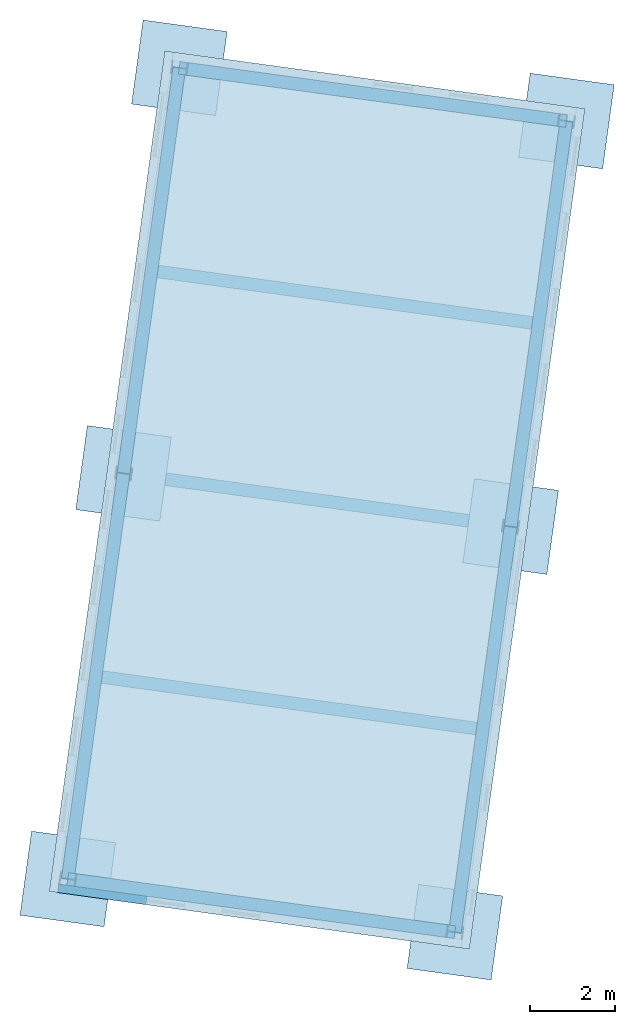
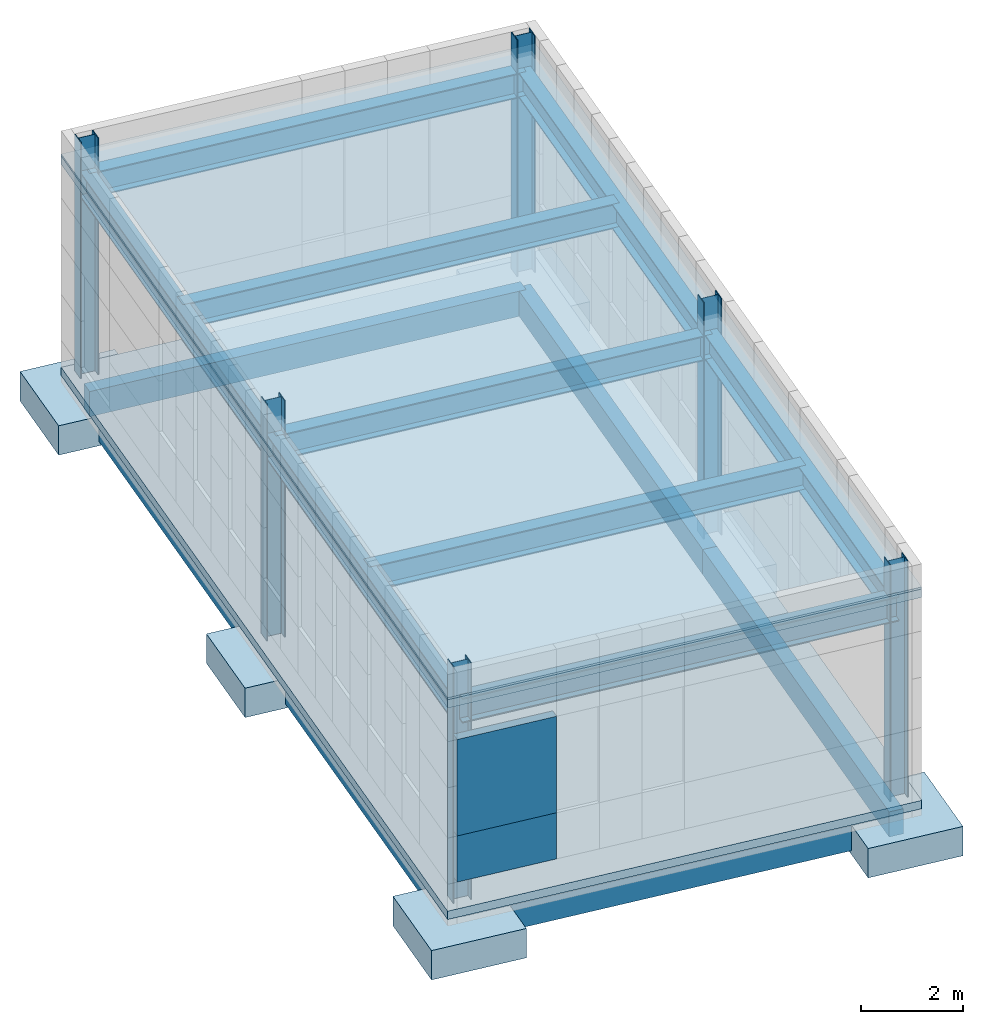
# One storey, part 1 of 5: 15 beams, 6 columns, 6 footings, 3 slabs, 2 walls.
"""IFC4 building model written with IfcOpenShell, lengths in metres."""

from ifc_helpers import new_model, si_unit, direction, origin_with_axes, place, context, subcontext, project, spatial, triangles, material, element, save


model = new_model("IFC4")

# Units and contexts
model_context = context("Model", 3, precision=1e-05, world=origin_with_axes(), true_north=direction((0.0, 1.0)))
body_context = subcontext(model_context, "Body", "Model", "MODEL_VIEW")
ifc_project = project(units=[si_unit("AREAUNIT", "SQUARE_METRE"), si_unit("VOLUMEUNIT", "CUBIC_METRE"), si_unit("LENGTHUNIT", "METRE")], contexts=[model_context])

# Site, building, storey
site_placement = place(None, origin_with_axes())
site = spatial("IfcSite", under=ifc_project, at=site_placement, Name="Parcela industrial Jinhong")
building_placement = place(site_placement, origin_with_axes())
building = spatial("IfcBuilding", under=site, at=building_placement, Name="Edificio de oficinas")
storey_placement = place(building_placement, origin_with_axes())
storey = spatial("IfcBuildingStorey", under=building, at=storey_placement, Name="Planta baja", Elevation=0.9499999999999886)

# Footings
ifc_material_1 = material(Name="Hormigón armado HA-30", Category="Material documentado")
footing_1_placement = place(storey_placement, origin_with_axes())
element("IfcFooting", 1, at=footing_1_placement, inside=storey, material=ifc_material_1, Name="Edificio de oficinas · zapata aislada BASE1 · 1", PredefinedType="PAD_FOOTING", context=body_context, shape_type="Tessellation", body=[
    triangles([(17.031806, 93.644174, -0.75), (16.759398, 91.662812, -0.75), (18.74076, 91.390404, -0.75), (19.013167, 93.371766, -0.75), (17.031806, 93.644174, -0.05), (16.759398, 91.662812, -0.05), (18.74076, 91.390404, -0.05), (19.013167, 93.371766, -0.05)], [[2, 1, 4], [4, 3, 2], [8, 5, 6], [6, 7, 8], [1, 2, 6], [1, 6, 5], [2, 3, 7], [2, 7, 6], [3, 4, 8], [3, 8, 7], [4, 1, 5], [4, 5, 8]], closed=True),
])
footing_2_placement = place(storey_placement, origin_with_axes())
element("IfcFooting", 2, at=footing_2_placement, inside=storey, material=ifc_material_1, Name="Edificio de oficinas · zapata aislada BASE1 · 2", PredefinedType="PAD_FOOTING", context=body_context, shape_type="Tessellation", body=[
    triangles([(15.717438, 84.084104, -0.75), (15.44503, 82.102742, -0.75), (17.426392, 81.830334, -0.75), (17.6988, 83.811696, -0.75), (15.717438, 84.084104, -0.05), (15.44503, 82.102742, -0.05), (17.426392, 81.830334, -0.05), (17.6988, 83.811696, -0.05)], [[2, 1, 4], [4, 3, 2], [8, 5, 6], [6, 7, 8], [1, 2, 6], [1, 6, 5], [2, 3, 7], [2, 7, 6], [3, 4, 8], [3, 8, 7], [4, 1, 5], [4, 5, 8]], closed=True),
])
footing_3_placement = place(storey_placement, origin_with_axes())
element("IfcFooting", 3, at=footing_3_placement, inside=storey, material=ifc_material_1, Name="Edificio de oficinas · zapata aislada BASE1 · 3", PredefinedType="PAD_FOOTING", context=body_context, shape_type="Tessellation", body=[
    triangles([(14.40307, 74.524034, -0.75), (14.130662, 72.542672, -0.75), (16.112024, 72.270264, -0.75), (16.384432, 74.251626, -0.75), (14.40307, 74.524034, -0.05), (14.130662, 72.542672, -0.05), (16.112024, 72.270264, -0.05), (16.384432, 74.251626, -0.05)], [[2, 1, 4], [4, 3, 2], [8, 5, 6], [6, 7, 8], [1, 2, 6], [1, 6, 5], [2, 3, 7], [2, 7, 6], [3, 4, 8], [3, 8, 7], [4, 1, 5], [4, 5, 8]], closed=True),
])
footing_4_placement = place(storey_placement, origin_with_axes())
element("IfcFooting", 4, at=footing_4_placement, inside=storey, material=ifc_material_1, Name="Edificio de oficinas · zapata aislada BASE1 · 4", PredefinedType="PAD_FOOTING", context=body_context, shape_type="Tessellation", body=[
    triangles([(26.155976, 92.389736, -0.75), (25.883568, 90.408374, -0.75), (27.86493, 90.135966, -0.75), (28.137338, 92.117328, -0.75), (26.155976, 92.389736, -0.05), (25.883568, 90.408374, -0.05), (27.86493, 90.135966, -0.05), (28.137338, 92.117328, -0.05)], [[2, 1, 4], [4, 3, 2], [8, 5, 6], [6, 7, 8], [1, 2, 6], [1, 6, 5], [2, 3, 7], [2, 7, 6], [3, 4, 8], [3, 8, 7], [4, 1, 5], [4, 5, 8]], closed=True),
])
footing_5_placement = place(storey_placement, origin_with_axes())
element("IfcFooting", 5, at=footing_5_placement, inside=storey, material=ifc_material_1, Name="Edificio de oficinas · zapata aislada BASE1 · 5", PredefinedType="PAD_FOOTING", context=body_context, shape_type="Tessellation", body=[
    triangles([(24.841608, 82.829666, -0.75), (24.5692, 80.848304, -0.75), (26.550562, 80.575896, -0.75), (26.82297, 82.557258, -0.75), (24.841608, 82.829666, -0.05), (24.5692, 80.848304, -0.05), (26.550562, 80.575896, -0.05), (26.82297, 82.557258, -0.05)], [[2, 1, 4], [4, 3, 2], [8, 5, 6], [6, 7, 8], [1, 2, 6], [1, 6, 5], [2, 3, 7], [2, 7, 6], [3, 4, 8], [3, 8, 7], [4, 1, 5], [4, 5, 8]], closed=True),
])
footing_6_placement = place(storey_placement, origin_with_axes())
element("IfcFooting", 6, at=footing_6_placement, inside=storey, material=ifc_material_1, Name="Edificio de oficinas · zapata aislada BASE1 · 6", PredefinedType="PAD_FOOTING", context=body_context, shape_type="Tessellation", body=[
    triangles([(23.52724, 73.269596, -0.75), (23.254833, 71.288234, -0.75), (25.236194, 71.015826, -0.75), (25.508602, 72.997188, -0.75), (23.52724, 73.269596, -0.05), (23.254833, 71.288234, -0.05), (25.236194, 71.015826, -0.05), (25.508602, 72.997188, -0.05)], [[2, 1, 4], [4, 3, 2], [8, 5, 6], [6, 7, 8], [1, 2, 6], [1, 6, 5], [2, 3, 7], [2, 7, 6], [3, 4, 8], [3, 8, 7], [4, 1, 5], [4, 5, 8]], closed=True),
])

# Columns
ifc_material_2 = material(Name="Acero estructural S355JR", Category="Material documentado")
column_1_placement = place(storey_placement, origin_with_axes())
element("IfcColumn", 7, at=column_1_placement, inside=storey, material=ifc_material_2, Name="Edificio de oficinas · pilar HEA400 · 1", PredefinedType="COLUMN", context=body_context, shape_type="Tessellation", body=[
    triangles([(17.713531, 92.692451, -0.05), (17.672669, 92.395247, -0.05), (17.691492, 92.392659, -0.05), (17.711174, 92.535812, -0.05), (18.059893, 92.487868, -0.05), (18.040212, 92.344715, -0.05), (18.059035, 92.342127, -0.05), (18.099896, 92.639331, -0.05), (18.081073, 92.641919, -0.05), (18.061392, 92.498766, -0.05), (17.712672, 92.54671, -0.05), (17.732353, 92.689863, -0.05), (17.713531, 92.692451, 5.95), (17.672669, 92.395247, 5.95), (17.691492, 92.392659, 5.95), (17.711174, 92.535812, 5.95), (18.059893, 92.487868, 5.95), (18.040212, 92.344715, 5.95), (18.059035, 92.342127, 5.95), (18.099896, 92.639331, 5.95), (18.081073, 92.641919, 5.95), (18.061392, 92.498766, 5.95), (17.712672, 92.54671, 5.95), (17.732353, 92.689863, 5.95)], [[2, 1, 12], [4, 3, 2], [7, 6, 5], [8, 7, 5], [10, 9, 8], [10, 8, 5], [10, 5, 4], [11, 10, 4], [11, 4, 2], [12, 11, 2], [24, 13, 14], [14, 15, 16], [17, 18, 19], [17, 19, 20], [20, 21, 22], [17, 20, 22], [16, 17, 22], [16, 22, 23], [14, 16, 23], [14, 23, 24], [1, 2, 14], [1, 14, 13], [2, 3, 15], [2, 15, 14], [3, 4, 16], [3, 16, 15], [4, 5, 17], [4, 17, 16], [5, 6, 18], [5, 18, 17], [6, 7, 19], [6, 19, 18], [7, 8, 20], [7, 20, 19], [8, 9, 21], [8, 21, 20], [9, 10, 22], [9, 22, 21], [10, 11, 23], [10, 23, 22], [11, 12, 24], [11, 24, 23], [12, 1, 13], [12, 13, 24]], closed=True),
])
column_2_placement = place(storey_placement, origin_with_axes())
element("IfcColumn", 8, at=column_2_placement, inside=storey, material=ifc_material_2, Name="Edificio de oficinas · pilar HEA400 · 2", PredefinedType="COLUMN", context=body_context, shape_type="Tessellation", body=[
    triangles([(16.399163, 83.132381, -0.05), (16.358301, 82.835177, -0.05), (16.377124, 82.832589, -0.05), (16.396806, 82.975742, -0.05), (16.745526, 82.927798, -0.05), (16.725844, 82.784645, -0.05), (16.744667, 82.782057, -0.05), (16.785528, 83.079261, -0.05), (16.766705, 83.081849, -0.05), (16.747024, 82.938696, -0.05), (16.398304, 82.98664, -0.05), (16.417986, 83.129793, -0.05), (16.399163, 83.132381, 5.95), (16.358301, 82.835177, 5.95), (16.377124, 82.832589, 5.95), (16.396806, 82.975742, 5.95), (16.745526, 82.927798, 5.95), (16.725844, 82.784645, 5.95), (16.744667, 82.782057, 5.95), (16.785528, 83.079261, 5.95), (16.766705, 83.081849, 5.95), (16.747024, 82.938696, 5.95), (16.398304, 82.98664, 5.95), (16.417986, 83.129793, 5.95)], [[2, 1, 12], [4, 3, 2], [7, 6, 5], [8, 7, 5], [10, 9, 8], [10, 8, 5], [10, 5, 4], [11, 10, 4], [11, 4, 2], [12, 11, 2], [24, 13, 14], [14, 15, 16], [17, 18, 19], [17, 19, 20], [20, 21, 22], [17, 20, 22], [16, 17, 22], [16, 22, 23], [14, 16, 23], [14, 23, 24], [1, 2, 14], [1, 14, 13], [2, 3, 15], [2, 15, 14], [3, 4, 16], [3, 16, 15], [4, 5, 17], [4, 17, 16], [5, 6, 18], [5, 18, 17], [6, 7, 19], [6, 19, 18], [7, 8, 20], [7, 20, 19], [8, 9, 21], [8, 21, 20], [9, 10, 22], [9, 22, 21], [10, 11, 23], [10, 23, 22], [11, 12, 24], [11, 24, 23], [12, 1, 13], [12, 13, 24]], closed=True),
])
column_3_placement = place(storey_placement, origin_with_axes())
element("IfcColumn", 9, at=column_3_placement, inside=storey, material=ifc_material_2, Name="Edificio de oficinas · pilar HEA400 · 3", PredefinedType="COLUMN", context=body_context, shape_type="Tessellation", body=[
    triangles([(15.084795, 73.572311, -0.05), (15.043934, 73.275107, -0.05), (15.062757, 73.272519, -0.05), (15.082438, 73.415672, -0.05), (15.431158, 73.367729, -0.05), (15.411476, 73.224575, -0.05), (15.430299, 73.221987, -0.05), (15.47116, 73.519192, -0.05), (15.452337, 73.521779, -0.05), (15.432656, 73.378626, -0.05), (15.083936, 73.42657, -0.05), (15.103618, 73.569723, -0.05), (15.084795, 73.572311, 5.95), (15.043934, 73.275107, 5.95), (15.062757, 73.272519, 5.95), (15.082438, 73.415672, 5.95), (15.431158, 73.367729, 5.95), (15.411476, 73.224575, 5.95), (15.430299, 73.221987, 5.95), (15.47116, 73.519192, 5.95), (15.452337, 73.521779, 5.95), (15.432656, 73.378626, 5.95), (15.083936, 73.42657, 5.95), (15.103618, 73.569723, 5.95)], [[2, 1, 12], [4, 3, 2], [7, 6, 5], [8, 7, 5], [10, 9, 8], [10, 8, 5], [10, 5, 4], [11, 10, 4], [11, 4, 2], [12, 11, 2], [24, 13, 14], [14, 15, 16], [17, 18, 19], [17, 19, 20], [20, 21, 22], [17, 20, 22], [16, 17, 22], [16, 22, 23], [14, 16, 23], [14, 23, 24], [1, 2, 14], [1, 14, 13], [2, 3, 15], [2, 15, 14], [3, 4, 16], [3, 16, 15], [4, 5, 17], [4, 17, 16], [5, 6, 18], [5, 18, 17], [6, 7, 19], [6, 19, 18], [7, 8, 20], [7, 20, 19], [8, 9, 21], [8, 21, 20], [9, 10, 22], [9, 22, 21], [10, 11, 23], [10, 23, 22], [11, 12, 24], [11, 24, 23], [12, 1, 13], [12, 13, 24]], closed=True),
])
column_4_placement = place(storey_placement, origin_with_axes())
element("IfcColumn", 10, at=column_4_placement, inside=storey, material=ifc_material_2, Name="Edificio de oficinas · pilar HEA400 · 4", PredefinedType="COLUMN", context=body_context, shape_type="Tessellation", body=[
    triangles([(26.837701, 91.438013, -0.05), (26.79684, 91.140808, -0.05), (26.815663, 91.138221, -0.05), (26.835344, 91.281374, -0.05), (27.184064, 91.23343, -0.05), (27.164382, 91.090277, -0.05), (27.183205, 91.087689, -0.05), (27.224066, 91.384893, -0.05), (27.205243, 91.387481, -0.05), (27.185562, 91.244328, -0.05), (26.836842, 91.292271, -0.05), (26.856524, 91.435425, -0.05), (26.837701, 91.438013, 5.95), (26.79684, 91.140808, 5.95), (26.815663, 91.138221, 5.95), (26.835344, 91.281374, 5.95), (27.184064, 91.23343, 5.95), (27.164382, 91.090277, 5.95), (27.183205, 91.087689, 5.95), (27.224066, 91.384893, 5.95), (27.205243, 91.387481, 5.95), (27.185562, 91.244328, 5.95), (26.836842, 91.292271, 5.95), (26.856524, 91.435425, 5.95)], [[2, 1, 12], [4, 3, 2], [7, 6, 5], [8, 7, 5], [10, 9, 8], [10, 8, 5], [10, 5, 4], [11, 10, 4], [11, 4, 2], [12, 11, 2], [24, 13, 14], [14, 15, 16], [17, 18, 19], [17, 19, 20], [20, 21, 22], [17, 20, 22], [16, 17, 22], [16, 22, 23], [14, 16, 23], [14, 23, 24], [1, 2, 14], [1, 14, 13], [2, 3, 15], [2, 15, 14], [3, 4, 16], [3, 16, 15], [4, 5, 17], [4, 17, 16], [5, 6, 18], [5, 18, 17], [6, 7, 19], [6, 19, 18], [7, 8, 20], [7, 20, 19], [8, 9, 21], [8, 21, 20], [9, 10, 22], [9, 22, 21], [10, 11, 23], [10, 23, 22], [11, 12, 24], [11, 24, 23], [12, 1, 13], [12, 13, 24]], closed=True),
])
column_5_placement = place(storey_placement, origin_with_axes())
element("IfcColumn", 11, at=column_5_placement, inside=storey, material=ifc_material_2, Name="Edificio de oficinas · pilar HEA400 · 5", PredefinedType="COLUMN", context=body_context, shape_type="Tessellation", body=[
    triangles([(25.523333, 81.877943, -0.05), (25.482472, 81.580739, -0.05), (25.501295, 81.578151, -0.05), (25.520976, 81.721304, -0.05), (25.869696, 81.67336, -0.05), (25.850014, 81.530207, -0.05), (25.868837, 81.527619, -0.05), (25.909699, 81.824823, -0.05), (25.890876, 81.827411, -0.05), (25.871194, 81.684258, -0.05), (25.522474, 81.732202, -0.05), (25.542156, 81.875355, -0.05), (25.523333, 81.877943, 5.95), (25.482472, 81.580739, 5.95), (25.501295, 81.578151, 5.95), (25.520976, 81.721304, 5.95), (25.869696, 81.67336, 5.95), (25.850014, 81.530207, 5.95), (25.868837, 81.527619, 5.95), (25.909699, 81.824823, 5.95), (25.890876, 81.827411, 5.95), (25.871194, 81.684258, 5.95), (25.522474, 81.732202, 5.95), (25.542156, 81.875355, 5.95)], [[2, 1, 12], [4, 3, 2], [7, 6, 5], [8, 7, 5], [10, 9, 8], [10, 8, 5], [10, 5, 4], [11, 10, 4], [11, 4, 2], [12, 11, 2], [24, 13, 14], [14, 15, 16], [17, 18, 19], [17, 19, 20], [20, 21, 22], [17, 20, 22], [16, 17, 22], [16, 22, 23], [14, 16, 23], [14, 23, 24], [1, 2, 14], [1, 14, 13], [2, 3, 15], [2, 15, 14], [3, 4, 16], [3, 16, 15], [4, 5, 17], [4, 17, 16], [5, 6, 18], [5, 18, 17], [6, 7, 19], [6, 19, 18], [7, 8, 20], [7, 20, 19], [8, 9, 21], [8, 21, 20], [9, 10, 22], [9, 22, 21], [10, 11, 23], [10, 23, 22], [11, 12, 24], [11, 24, 23], [12, 1, 13], [12, 13, 24]], closed=True),
])
column_6_placement = place(storey_placement, origin_with_axes())
element("IfcColumn", 12, at=column_6_placement, inside=storey, material=ifc_material_2, Name="Edificio de oficinas · pilar HEA400 · 6", PredefinedType="COLUMN", context=body_context, shape_type="Tessellation", body=[
    triangles([(24.208965, 72.317873, -0.05), (24.168104, 72.020669, -0.05), (24.186927, 72.018081, -0.05), (24.206608, 72.161234, -0.05), (24.555328, 72.11329, -0.05), (24.535647, 71.970137, -0.05), (24.554469, 71.967549, -0.05), (24.595331, 72.264753, -0.05), (24.576508, 72.267341, -0.05), (24.556826, 72.124188, -0.05), (24.208107, 72.172132, -0.05), (24.227788, 72.315285, -0.05), (24.208965, 72.317873, 5.95), (24.168104, 72.020669, 5.95), (24.186927, 72.018081, 5.95), (24.206608, 72.161234, 5.95), (24.555328, 72.11329, 5.95), (24.535647, 71.970137, 5.95), (24.554469, 71.967549, 5.95), (24.595331, 72.264753, 5.95), (24.576508, 72.267341, 5.95), (24.556826, 72.124188, 5.95), (24.208107, 72.172132, 5.95), (24.227788, 72.315285, 5.95)], [[2, 1, 12], [4, 3, 2], [7, 6, 5], [8, 7, 5], [10, 9, 8], [10, 8, 5], [10, 5, 4], [11, 10, 4], [11, 4, 2], [12, 11, 2], [24, 13, 14], [14, 15, 16], [17, 18, 19], [17, 19, 20], [20, 21, 22], [17, 20, 22], [16, 17, 22], [16, 22, 23], [14, 16, 23], [14, 23, 24], [1, 2, 14], [1, 14, 13], [2, 3, 15], [2, 15, 14], [3, 4, 16], [3, 16, 15], [4, 5, 17], [4, 17, 16], [5, 6, 18], [5, 18, 17], [6, 7, 19], [6, 19, 18], [7, 8, 20], [7, 20, 19], [8, 9, 21], [8, 21, 20], [9, 10, 22], [9, 22, 21], [10, 11, 23], [10, 23, 22], [11, 12, 24], [11, 24, 23], [12, 1, 13], [12, 13, 24]], closed=True),
])

# Beams
ifc_material_3 = material(Name="Acero estructural S355JR", Category="Material documentado")
beam_1_placement = place(storey_placement, origin_with_axes())
element("IfcBeam", 13, at=beam_1_placement, inside=storey, material=ifc_material_3, Name="Edificio de oficinas · viga de cubierta HEA600 · 1", PredefinedType="BEAM", context=body_context, shape_type="Tessellation", body=[
    triangles([(17.737681, 92.53772, 4.56), (18.034885, 92.496858, 4.56), (18.034885, 92.496858, 4.585), (17.892722, 92.516404, 4.585), (17.892722, 92.516404, 5.125), (18.034885, 92.496858, 5.125), (18.034885, 92.496858, 5.15), (17.737681, 92.53772, 5.15), (17.737681, 92.53772, 5.125), (17.879843, 92.518174, 5.125), (17.879843, 92.518174, 4.585), (17.737681, 92.53772, 4.585), (16.423313, 82.97765, 4.56), (16.720517, 82.936788, 4.56), (16.720517, 82.936788, 4.585), (16.578354, 82.956334, 4.585), (16.578354, 82.956334, 5.125), (16.720517, 82.936788, 5.125), (16.720517, 82.936788, 5.15), (16.423313, 82.97765, 5.15), (16.423313, 82.97765, 5.125), (16.565475, 82.958104, 5.125), (16.565475, 82.958104, 4.585), (16.423313, 82.97765, 4.585)], [[2, 1, 12], [4, 3, 2], [7, 6, 5], [8, 7, 5], [10, 9, 8], [10, 8, 5], [10, 5, 4], [11, 10, 4], [11, 4, 2], [12, 11, 2], [24, 13, 14], [14, 15, 16], [17, 18, 19], [17, 19, 20], [20, 21, 22], [17, 20, 22], [16, 17, 22], [16, 22, 23], [14, 16, 23], [14, 23, 24], [1, 2, 14], [1, 14, 13], [2, 3, 15], [2, 15, 14], [3, 4, 16], [3, 16, 15], [4, 5, 17], [4, 17, 16], [5, 6, 18], [5, 18, 17], [6, 7, 19], [6, 19, 18], [7, 8, 20], [7, 20, 19], [8, 9, 21], [8, 21, 20], [9, 10, 22], [9, 22, 21], [10, 11, 23], [10, 23, 22], [11, 12, 24], [11, 24, 23], [12, 1, 13], [12, 13, 24]], closed=True),
])
beam_2_placement = place(storey_placement, origin_with_axes())
element("IfcBeam", 14, at=beam_2_placement, inside=storey, material=ifc_material_3, Name="Edificio de oficinas · viga de cubierta HEA600 · 2", PredefinedType="BEAM", context=body_context, shape_type="Tessellation", body=[
    triangles([(16.423313, 82.97765, 4.56), (16.720517, 82.936788, 4.56), (16.720517, 82.936788, 4.585), (16.578354, 82.956334, 4.585), (16.578354, 82.956334, 5.125), (16.720517, 82.936788, 5.125), (16.720517, 82.936788, 5.15), (16.423313, 82.97765, 5.15), (16.423313, 82.97765, 5.125), (16.565475, 82.958104, 5.125), (16.565475, 82.958104, 4.585), (16.423313, 82.97765, 4.585), (15.108945, 73.41758, 4.56), (15.406149, 73.376719, 4.56), (15.406149, 73.376719, 4.585), (15.263986, 73.396264, 4.585), (15.263986, 73.396264, 5.125), (15.406149, 73.376719, 5.125), (15.406149, 73.376719, 5.15), (15.108945, 73.41758, 5.15), (15.108945, 73.41758, 5.125), (15.251108, 73.398034, 5.125), (15.251108, 73.398034, 4.585), (15.108945, 73.41758, 4.585)], [[2, 1, 12], [4, 3, 2], [7, 6, 5], [8, 7, 5], [10, 9, 8], [10, 8, 5], [10, 5, 4], [11, 10, 4], [11, 4, 2], [12, 11, 2], [24, 13, 14], [14, 15, 16], [17, 18, 19], [17, 19, 20], [20, 21, 22], [17, 20, 22], [16, 17, 22], [16, 22, 23], [14, 16, 23], [14, 23, 24], [1, 2, 14], [1, 14, 13], [2, 3, 15], [2, 15, 14], [3, 4, 16], [3, 16, 15], [4, 5, 17], [4, 17, 16], [5, 6, 18], [5, 18, 17], [6, 7, 19], [6, 19, 18], [7, 8, 20], [7, 20, 19], [8, 9, 21], [8, 21, 20], [9, 10, 22], [9, 22, 21], [10, 11, 23], [10, 23, 22], [11, 12, 24], [11, 24, 23], [12, 1, 13], [12, 13, 24]], closed=True),
])
beam_3_placement = place(storey_placement, origin_with_axes())
element("IfcBeam", 15, at=beam_3_placement, inside=storey, material=ifc_material_3, Name="Edificio de oficinas · viga de cubierta HEA600 · 3", PredefinedType="BEAM", context=body_context, shape_type="Tessellation", body=[
    triangles([(26.861851, 91.283281, 4.56), (27.159055, 91.24242, 4.56), (27.159055, 91.24242, 4.585), (27.016892, 91.261966, 4.585), (27.016892, 91.261966, 5.125), (27.159055, 91.24242, 5.125), (27.159055, 91.24242, 5.15), (26.861851, 91.283281, 5.15), (26.861851, 91.283281, 5.125), (27.004014, 91.263736, 5.125), (27.004014, 91.263736, 4.585), (26.861851, 91.283281, 4.585), (25.547483, 81.723212, 4.56), (25.844687, 81.68235, 4.56), (25.844687, 81.68235, 4.585), (25.702525, 81.701896, 4.585), (25.702525, 81.701896, 5.125), (25.844687, 81.68235, 5.125), (25.844687, 81.68235, 5.15), (25.547483, 81.723212, 5.15), (25.547483, 81.723212, 5.125), (25.689646, 81.703666, 5.125), (25.689646, 81.703666, 4.585), (25.547483, 81.723212, 4.585)], [[2, 1, 12], [4, 3, 2], [7, 6, 5], [8, 7, 5], [10, 9, 8], [10, 8, 5], [10, 5, 4], [11, 10, 4], [11, 4, 2], [12, 11, 2], [24, 13, 14], [14, 15, 16], [17, 18, 19], [17, 19, 20], [20, 21, 22], [17, 20, 22], [16, 17, 22], [16, 22, 23], [14, 16, 23], [14, 23, 24], [1, 2, 14], [1, 14, 13], [2, 3, 15], [2, 15, 14], [3, 4, 16], [3, 16, 15], [4, 5, 17], [4, 17, 16], [5, 6, 18], [5, 18, 17], [6, 7, 19], [6, 19, 18], [7, 8, 20], [7, 20, 19], [8, 9, 21], [8, 21, 20], [9, 10, 22], [9, 22, 21], [10, 11, 23], [10, 23, 22], [11, 12, 24], [11, 24, 23], [12, 1, 13], [12, 13, 24]], closed=True),
])
beam_4_placement = place(storey_placement, origin_with_axes())
element("IfcBeam", 16, at=beam_4_placement, inside=storey, material=ifc_material_3, Name="Edificio de oficinas · viga de cubierta HEA600 · 4", PredefinedType="BEAM", context=body_context, shape_type="Tessellation", body=[
    triangles([(25.547483, 81.723212, 4.56), (25.844687, 81.68235, 4.56), (25.844687, 81.68235, 4.585), (25.702525, 81.701896, 4.585), (25.702525, 81.701896, 5.125), (25.844687, 81.68235, 5.125), (25.844687, 81.68235, 5.15), (25.547483, 81.723212, 5.15), (25.547483, 81.723212, 5.125), (25.689646, 81.703666, 5.125), (25.689646, 81.703666, 4.585), (25.547483, 81.723212, 4.585), (24.233115, 72.163142, 4.56), (24.530319, 72.12228, 4.56), (24.530319, 72.12228, 4.585), (24.388157, 72.141826, 4.585), (24.388157, 72.141826, 5.125), (24.530319, 72.12228, 5.125), (24.530319, 72.12228, 5.15), (24.233115, 72.163142, 5.15), (24.233115, 72.163142, 5.125), (24.375278, 72.143596, 5.125), (24.375278, 72.143596, 4.585), (24.233115, 72.163142, 4.585)], [[2, 1, 12], [4, 3, 2], [7, 6, 5], [8, 7, 5], [10, 9, 8], [10, 8, 5], [10, 5, 4], [11, 10, 4], [11, 4, 2], [12, 11, 2], [24, 13, 14], [14, 15, 16], [17, 18, 19], [17, 19, 20], [20, 21, 22], [17, 20, 22], [16, 17, 22], [16, 22, 23], [14, 16, 23], [14, 23, 24], [1, 2, 14], [1, 14, 13], [2, 3, 15], [2, 15, 14], [3, 4, 16], [3, 16, 15], [4, 5, 17], [4, 17, 16], [5, 6, 18], [5, 18, 17], [6, 7, 19], [6, 19, 18], [7, 8, 20], [7, 20, 19], [8, 9, 21], [8, 21, 20], [9, 10, 22], [9, 22, 21], [10, 11, 23], [10, 23, 22], [11, 12, 24], [11, 24, 23], [12, 1, 13], [12, 13, 24]], closed=True),
])
beam_5_placement = place(storey_placement, origin_with_axes())
element("IfcBeam", 17, at=beam_5_placement, inside=storey, material=ifc_material_3, Name="Edificio de oficinas · viga de cubierta HEA600 · 5", PredefinedType="BEAM", context=body_context, shape_type="Tessellation", body=[
    triangles([(17.865852, 92.368687, 4.56), (17.906713, 92.665891, 4.56), (17.906713, 92.665891, 4.585), (17.887168, 92.523728, 4.585), (17.887168, 92.523728, 5.125), (17.906713, 92.665891, 5.125), (17.906713, 92.665891, 5.15), (17.865852, 92.368687, 5.15), (17.865852, 92.368687, 5.125), (17.885397, 92.51085, 5.125), (17.885397, 92.51085, 4.585), (17.865852, 92.368687, 4.585), (26.990022, 91.114249, 4.56), (27.030884, 91.411453, 4.56), (27.030884, 91.411453, 4.585), (27.011338, 91.26929, 4.585), (27.011338, 91.26929, 5.125), (27.030884, 91.411453, 5.125), (27.030884, 91.411453, 5.15), (26.990022, 91.114249, 5.15), (26.990022, 91.114249, 5.125), (27.009568, 91.256411, 5.125), (27.009568, 91.256411, 4.585), (26.990022, 91.114249, 4.585)], [[2, 1, 12], [4, 3, 2], [7, 6, 5], [8, 7, 5], [10, 9, 8], [10, 8, 5], [10, 5, 4], [11, 10, 4], [11, 4, 2], [12, 11, 2], [24, 13, 14], [14, 15, 16], [17, 18, 19], [17, 19, 20], [20, 21, 22], [17, 20, 22], [16, 17, 22], [16, 22, 23], [14, 16, 23], [14, 23, 24], [1, 2, 14], [1, 14, 13], [2, 3, 15], [2, 15, 14], [3, 4, 16], [3, 16, 15], [4, 5, 17], [4, 17, 16], [5, 6, 18], [5, 18, 17], [6, 7, 19], [6, 19, 18], [7, 8, 20], [7, 20, 19], [8, 9, 21], [8, 21, 20], [9, 10, 22], [9, 22, 21], [10, 11, 23], [10, 23, 22], [11, 12, 24], [11, 24, 23], [12, 1, 13], [12, 13, 24]], closed=True),
])
beam_6_placement = place(storey_placement, origin_with_axes())
element("IfcBeam", 18, at=beam_6_placement, inside=storey, material=ifc_material_3, Name="Edificio de oficinas · viga de cubierta HEA600 · 6", PredefinedType="BEAM", context=body_context, shape_type="Tessellation", body=[
    triangles([(17.208668, 87.588652, 4.56), (17.249529, 87.885856, 4.56), (17.249529, 87.885856, 4.585), (17.229984, 87.743693, 4.585), (17.229984, 87.743693, 5.125), (17.249529, 87.885856, 5.125), (17.249529, 87.885856, 5.15), (17.208668, 87.588652, 5.15), (17.208668, 87.588652, 5.125), (17.228213, 87.730815, 5.125), (17.228213, 87.730815, 4.585), (17.208668, 87.588652, 4.585), (26.332839, 86.334214, 4.56), (26.3737, 86.631418, 4.56), (26.3737, 86.631418, 4.585), (26.354154, 86.489255, 4.585), (26.354154, 86.489255, 5.125), (26.3737, 86.631418, 5.125), (26.3737, 86.631418, 5.15), (26.332839, 86.334214, 5.15), (26.332839, 86.334214, 5.125), (26.352384, 86.476376, 5.125), (26.352384, 86.476376, 4.585), (26.332839, 86.334214, 4.585)], [[2, 1, 12], [4, 3, 2], [7, 6, 5], [8, 7, 5], [10, 9, 8], [10, 8, 5], [10, 5, 4], [11, 10, 4], [11, 4, 2], [12, 11, 2], [24, 13, 14], [14, 15, 16], [17, 18, 19], [17, 19, 20], [20, 21, 22], [17, 20, 22], [16, 17, 22], [16, 22, 23], [14, 16, 23], [14, 23, 24], [1, 2, 14], [1, 14, 13], [2, 3, 15], [2, 15, 14], [3, 4, 16], [3, 16, 15], [4, 5, 17], [4, 17, 16], [5, 6, 18], [5, 18, 17], [6, 7, 19], [6, 19, 18], [7, 8, 20], [7, 20, 19], [8, 9, 21], [8, 21, 20], [9, 10, 22], [9, 22, 21], [10, 11, 23], [10, 23, 22], [11, 12, 24], [11, 24, 23], [12, 1, 13], [12, 13, 24]], closed=True),
])
beam_7_placement = place(storey_placement, origin_with_axes())
element("IfcBeam", 19, at=beam_7_placement, inside=storey, material=ifc_material_3, Name="Edificio de oficinas · viga de cubierta HEA600 · 7", PredefinedType="BEAM", context=body_context, shape_type="Tessellation", body=[
    triangles([(16.551484, 82.808617, 4.56), (16.592345, 83.105821, 4.56), (16.592345, 83.105821, 4.585), (16.5728, 82.963659, 4.585), (16.5728, 82.963659, 5.125), (16.592345, 83.105821, 5.125), (16.592345, 83.105821, 5.15), (16.551484, 82.808617, 5.15), (16.551484, 82.808617, 5.125), (16.571029, 82.95078, 5.125), (16.571029, 82.95078, 4.585), (16.551484, 82.808617, 4.585), (25.675655, 81.554179, 4.56), (25.716516, 81.851383, 4.56), (25.716516, 81.851383, 4.585), (25.696971, 81.70922, 4.585), (25.696971, 81.70922, 5.125), (25.716516, 81.851383, 5.125), (25.716516, 81.851383, 5.15), (25.675655, 81.554179, 5.15), (25.675655, 81.554179, 5.125), (25.6952, 81.696341, 5.125), (25.6952, 81.696341, 4.585), (25.675655, 81.554179, 4.585)], [[2, 1, 12], [4, 3, 2], [7, 6, 5], [8, 7, 5], [10, 9, 8], [10, 8, 5], [10, 5, 4], [11, 10, 4], [11, 4, 2], [12, 11, 2], [24, 13, 14], [14, 15, 16], [17, 18, 19], [17, 19, 20], [20, 21, 22], [17, 20, 22], [16, 17, 22], [16, 22, 23], [14, 16, 23], [14, 23, 24], [1, 2, 14], [1, 14, 13], [2, 3, 15], [2, 15, 14], [3, 4, 16], [3, 16, 15], [4, 5, 17], [4, 17, 16], [5, 6, 18], [5, 18, 17], [6, 7, 19], [6, 19, 18], [7, 8, 20], [7, 20, 19], [8, 9, 21], [8, 21, 20], [9, 10, 22], [9, 22, 21], [10, 11, 23], [10, 23, 22], [11, 12, 24], [11, 24, 23], [12, 1, 13], [12, 13, 24]], closed=True),
])
beam_8_placement = place(storey_placement, origin_with_axes())
element("IfcBeam", 20, at=beam_8_placement, inside=storey, material=ifc_material_3, Name="Edificio de oficinas · viga de cubierta HEA600 · 8", PredefinedType="BEAM", context=body_context, shape_type="Tessellation", body=[
    triangles([(15.8943, 78.028582, 4.56), (15.935161, 78.325786, 4.56), (15.935161, 78.325786, 4.585), (15.915616, 78.183624, 4.585), (15.915616, 78.183624, 5.125), (15.935161, 78.325786, 5.125), (15.935161, 78.325786, 5.15), (15.8943, 78.028582, 5.15), (15.8943, 78.028582, 5.125), (15.913846, 78.170745, 5.125), (15.913846, 78.170745, 4.585), (15.8943, 78.028582, 4.585), (25.018471, 76.774144, 4.56), (25.059332, 77.071348, 4.56), (25.059332, 77.071348, 4.585), (25.039787, 76.929185, 4.585), (25.039787, 76.929185, 5.125), (25.059332, 77.071348, 5.125), (25.059332, 77.071348, 5.15), (25.018471, 76.774144, 5.15), (25.018471, 76.774144, 5.125), (25.038016, 76.916307, 5.125), (25.038016, 76.916307, 4.585), (25.018471, 76.774144, 4.585)], [[2, 1, 12], [4, 3, 2], [7, 6, 5], [8, 7, 5], [10, 9, 8], [10, 8, 5], [10, 5, 4], [11, 10, 4], [11, 4, 2], [12, 11, 2], [24, 13, 14], [14, 15, 16], [17, 18, 19], [17, 19, 20], [20, 21, 22], [17, 20, 22], [16, 17, 22], [16, 22, 23], [14, 16, 23], [14, 23, 24], [1, 2, 14], [1, 14, 13], [2, 3, 15], [2, 15, 14], [3, 4, 16], [3, 16, 15], [4, 5, 17], [4, 17, 16], [5, 6, 18], [5, 18, 17], [6, 7, 19], [6, 19, 18], [7, 8, 20], [7, 20, 19], [8, 9, 21], [8, 21, 20], [9, 10, 22], [9, 22, 21], [10, 11, 23], [10, 23, 22], [11, 12, 24], [11, 24, 23], [12, 1, 13], [12, 13, 24]], closed=True),
])
beam_9_placement = place(storey_placement, origin_with_axes())
element("IfcBeam", 21, at=beam_9_placement, inside=storey, material=ifc_material_3, Name="Edificio de oficinas · viga de cubierta HEA600 · 9", PredefinedType="BEAM", context=body_context, shape_type="Tessellation", body=[
    triangles([(15.237116, 73.248547, 4.56), (15.277978, 73.545751, 4.56), (15.277978, 73.545751, 4.585), (15.258432, 73.403589, 4.585), (15.258432, 73.403589, 5.125), (15.277978, 73.545751, 5.125), (15.277978, 73.545751, 5.15), (15.237116, 73.248547, 5.15), (15.237116, 73.248547, 5.125), (15.256662, 73.39071, 5.125), (15.256662, 73.39071, 4.585), (15.237116, 73.248547, 4.585), (24.361287, 71.994109, 4.56), (24.402148, 72.291313, 4.56), (24.402148, 72.291313, 4.585), (24.382603, 72.14915, 4.585), (24.382603, 72.14915, 5.125), (24.402148, 72.291313, 5.125), (24.402148, 72.291313, 5.15), (24.361287, 71.994109, 5.15), (24.361287, 71.994109, 5.125), (24.380832, 72.136272, 5.125), (24.380832, 72.136272, 4.585), (24.361287, 71.994109, 4.585)], [[2, 1, 12], [4, 3, 2], [7, 6, 5], [8, 7, 5], [10, 9, 8], [10, 8, 5], [10, 5, 4], [11, 10, 4], [11, 4, 2], [12, 11, 2], [24, 13, 14], [14, 15, 16], [17, 18, 19], [17, 19, 20], [20, 21, 22], [17, 20, 22], [16, 17, 22], [16, 22, 23], [14, 16, 23], [14, 23, 24], [1, 2, 14], [1, 14, 13], [2, 3, 15], [2, 15, 14], [3, 4, 16], [3, 16, 15], [4, 5, 17], [4, 17, 16], [5, 6, 18], [5, 18, 17], [6, 7, 19], [6, 19, 18], [7, 8, 20], [7, 20, 19], [8, 9, 21], [8, 21, 20], [9, 10, 22], [9, 22, 21], [10, 11, 23], [10, 23, 22], [11, 12, 24], [11, 24, 23], [12, 1, 13], [12, 13, 24]], closed=True),
])
beam_10_placement = place(storey_placement, origin_with_axes())
element("IfcBeam", 22, at=beam_10_placement, inside=storey, material=ifc_material_1, Name="Edificio de oficinas · viga de atado VC1 · 1", PredefinedType="BEAM", context=body_context, shape_type="Tessellation", body=[
    triangles([(17.737681, 92.53772, -0.65), (18.034885, 92.496858, -0.65), (18.034885, 92.496858, -0.05), (17.737681, 92.53772, -0.05), (16.423313, 82.97765, -0.65), (16.720517, 82.936788, -0.65), (16.720517, 82.936788, -0.05), (16.423313, 82.97765, -0.05)], [[2, 1, 4], [4, 3, 2], [8, 5, 6], [6, 7, 8], [1, 2, 6], [1, 6, 5], [2, 3, 7], [2, 7, 6], [3, 4, 8], [3, 8, 7], [4, 1, 5], [4, 5, 8]], closed=True),
])
beam_11_placement = place(storey_placement, origin_with_axes())
element("IfcBeam", 23, at=beam_11_placement, inside=storey, material=ifc_material_1, Name="Edificio de oficinas · viga de atado VC1 · 2", PredefinedType="BEAM", context=body_context, shape_type="Tessellation", body=[
    triangles([(16.423313, 82.97765, -0.65), (16.720517, 82.936788, -0.65), (16.720517, 82.936788, -0.05), (16.423313, 82.97765, -0.05), (15.108945, 73.41758, -0.65), (15.406149, 73.376719, -0.65), (15.406149, 73.376719, -0.05), (15.108945, 73.41758, -0.05)], [[2, 1, 4], [4, 3, 2], [8, 5, 6], [6, 7, 8], [1, 2, 6], [1, 6, 5], [2, 3, 7], [2, 7, 6], [3, 4, 8], [3, 8, 7], [4, 1, 5], [4, 5, 8]], closed=True),
])
beam_12_placement = place(storey_placement, origin_with_axes())
element("IfcBeam", 24, at=beam_12_placement, inside=storey, material=ifc_material_1, Name="Edificio de oficinas · viga de atado VC1 · 3", PredefinedType="BEAM", context=body_context, shape_type="Tessellation", body=[
    triangles([(26.861851, 91.283281, -0.65), (27.159055, 91.24242, -0.65), (27.159055, 91.24242, -0.05), (26.861851, 91.283281, -0.05), (25.547483, 81.723212, -0.65), (25.844687, 81.68235, -0.65), (25.844687, 81.68235, -0.05), (25.547483, 81.723212, -0.05)], [[2, 1, 4], [4, 3, 2], [8, 5, 6], [6, 7, 8], [1, 2, 6], [1, 6, 5], [2, 3, 7], [2, 7, 6], [3, 4, 8], [3, 8, 7], [4, 1, 5], [4, 5, 8]], closed=True),
])
beam_13_placement = place(storey_placement, origin_with_axes())
element("IfcBeam", 25, at=beam_13_placement, inside=storey, material=ifc_material_1, Name="Edificio de oficinas · viga de atado VC1 · 4", PredefinedType="BEAM", context=body_context, shape_type="Tessellation", body=[
    triangles([(25.547483, 81.723212, -0.65), (25.844687, 81.68235, -0.65), (25.844687, 81.68235, -0.05), (25.547483, 81.723212, -0.05), (24.233115, 72.163142, -0.65), (24.530319, 72.12228, -0.65), (24.530319, 72.12228, -0.05), (24.233115, 72.163142, -0.05)], [[2, 1, 4], [4, 3, 2], [8, 5, 6], [6, 7, 8], [1, 2, 6], [1, 6, 5], [2, 3, 7], [2, 7, 6], [3, 4, 8], [3, 8, 7], [4, 1, 5], [4, 5, 8]], closed=True),
])
beam_14_placement = place(storey_placement, origin_with_axes())
element("IfcBeam", 26, at=beam_14_placement, inside=storey, material=ifc_material_1, Name="Edificio de oficinas · viga de atado VC1 · 5", PredefinedType="BEAM", context=body_context, shape_type="Tessellation", body=[
    triangles([(17.865852, 92.368687, -0.65), (17.906713, 92.665891, -0.65), (17.906713, 92.665891, -0.05), (17.865852, 92.368687, -0.05), (26.990022, 91.114249, -0.65), (27.030884, 91.411453, -0.65), (27.030884, 91.411453, -0.05), (26.990022, 91.114249, -0.05)], [[2, 1, 4], [4, 3, 2], [8, 5, 6], [6, 7, 8], [1, 2, 6], [1, 6, 5], [2, 3, 7], [2, 7, 6], [3, 4, 8], [3, 8, 7], [4, 1, 5], [4, 5, 8]], closed=True),
])
beam_15_placement = place(storey_placement, origin_with_axes())
element("IfcBeam", 27, at=beam_15_placement, inside=storey, material=ifc_material_1, Name="Edificio de oficinas · viga de atado VC1 · 6", PredefinedType="BEAM", context=body_context, shape_type="Tessellation", body=[
    triangles([(15.237116, 73.248547, -0.65), (15.277978, 73.545751, -0.65), (15.277978, 73.545751, -0.05), (15.237116, 73.248547, -0.05), (24.361287, 71.994109, -0.65), (24.402148, 72.291313, -0.65), (24.402148, 72.291313, -0.05), (24.361287, 71.994109, -0.05)], [[2, 1, 4], [4, 3, 2], [8, 5, 6], [6, 7, 8], [1, 2, 6], [1, 6, 5], [2, 3, 7], [2, 7, 6], [3, 4, 8], [3, 8, 7], [4, 1, 5], [4, 5, 8]], closed=True),
])

# Slabs
ifc_material_4 = material(Name="Hormigón armado", Category="Material documentado")
slab_1_placement = place(storey_placement, origin_with_axes())
element("IfcSlab", 28, at=slab_1_placement, inside=storey, material=ifc_material_4, Name="Losa inferior de hormigón armado de oficinas · 200 mm", PredefinedType="BASESLAB", context=body_context, shape_type="Tessellation", body=[
    triangles([(17.542635, 92.917828, 0.11), (14.818557, 73.104211, 0.11), (24.725365, 71.742172, 0.11), (27.449443, 91.555789, 0.11), (17.542635, 92.917828, 0.31), (14.818557, 73.104211, 0.31), (24.725365, 71.742172, 0.31), (27.449443, 91.555789, 0.31)], [[2, 1, 4], [4, 3, 2], [8, 5, 6], [6, 7, 8], [1, 2, 6], [1, 6, 5], [2, 3, 7], [2, 7, 6], [3, 4, 8], [3, 8, 7], [4, 1, 5], [4, 5, 8]], closed=True),
])
ifc_material_5 = material(Name="Hormigón prefabricado pretensado", Category="Material documentado")
slab_2_placement = place(storey_placement, origin_with_axes())
element("IfcSlab", 29, at=slab_2_placement, inside=storey, material=ifc_material_5, Name="Placa alveolar prefabricada de cubierta de oficinas · 200 mm · volumen bruto", PredefinedType="ROOF", context=body_context, shape_type="Tessellation", body=[
    triangles([(17.542635, 92.917828, 5.15), (14.818557, 73.104211, 5.15), (24.725365, 71.742172, 5.15), (27.449443, 91.555789, 5.15), (17.542635, 92.917828, 5.35), (14.818557, 73.104211, 5.35), (24.725365, 71.742172, 5.35), (27.449443, 91.555789, 5.35)], [[2, 1, 4], [4, 3, 2], [8, 5, 6], [6, 7, 8], [1, 2, 6], [1, 6, 5], [2, 3, 7], [2, 7, 6], [3, 4, 8], [3, 8, 7], [4, 1, 5], [4, 5, 8]], closed=True),
])
ifc_material_6 = material(Name="Hormigón de áridos finos HA-25", Category="Material documentado")
slab_3_placement = place(storey_placement, origin_with_axes())
element("IfcSlab", 30, at=slab_3_placement, inside=storey, material=ifc_material_6, Name="Capa de compresión de cubierta de oficinas · 50 mm", PredefinedType="ROOF", context=body_context, shape_type="Tessellation", body=[
    triangles([(17.542635, 92.917828, 5.35), (14.818557, 73.104211, 5.35), (24.725365, 71.742172, 5.35), (27.449443, 91.555789, 5.35), (17.542635, 92.917828, 5.4), (14.818557, 73.104211, 5.4), (24.725365, 71.742172, 5.4), (27.449443, 91.555789, 5.4)], [[2, 1, 4], [4, 3, 2], [8, 5, 6], [6, 7, 8], [1, 2, 6], [1, 6, 5], [2, 3, 7], [2, 7, 6], [3, 4, 8], [3, 8, 7], [4, 1, 5], [4, 5, 8]], closed=True),
])

# Walls
ifc_material_7 = material(Name="Bloque hueco de hormigón de árido ligero", Category="Material documentado")
wall_1_placement = place(storey_placement, origin_with_axes())
element("IfcWall", 31, at=wall_1_placement, inside=storey, material=ifc_material_7, Name="Edificio de oficinas · Fábrica de bloques huecos de hormigón de 200 mm · eje 3 · tramo 01", PredefinedType="STANDARD", context=body_context, shape_type="Tessellation", body=[
    triangles([(15.043934, 73.275107, 0.95), (15.016693, 73.076971, 0.95), (17.097123, 72.790942, 0.95), (17.124363, 72.989079, 0.95), (15.043934, 73.275107, 2.05), (15.016693, 73.076971, 2.05), (17.097123, 72.790942, 2.05), (17.124363, 72.989079, 2.05)], [[2, 1, 4], [4, 3, 2], [8, 5, 6], [6, 7, 8], [1, 2, 6], [1, 6, 5], [2, 3, 7], [2, 7, 6], [3, 4, 8], [3, 8, 7], [4, 1, 5], [4, 5, 8]], closed=True),
])
wall_2_placement = place(storey_placement, origin_with_axes())
element("IfcWall", 32, at=wall_2_placement, inside=storey, material=ifc_material_7, Name="Edificio de oficinas · Fábrica de bloques huecos de hormigón de 200 mm · eje 3 · tramo 02", PredefinedType="STANDARD", context=body_context, shape_type="Tessellation", body=[
    triangles([(15.043934, 73.275107, 2.05), (15.016693, 73.076971, 2.05), (17.097123, 72.790942, 2.05), (17.124363, 72.989079, 2.05), (15.043934, 73.275107, 4.35), (15.016693, 73.076971, 4.35), (17.097123, 72.790942, 4.35), (17.124363, 72.989079, 4.35)], [[2, 1, 4], [4, 3, 2], [8, 5, 6], [6, 7, 8], [1, 2, 6], [1, 6, 5], [2, 3, 7], [2, 7, 6], [3, 4, 8], [3, 8, 7], [4, 1, 5], [4, 5, 8]], closed=True),
])

save(model, "model.ifc")
